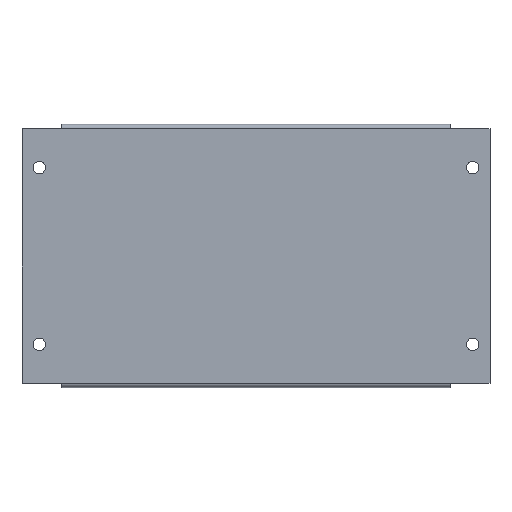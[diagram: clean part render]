
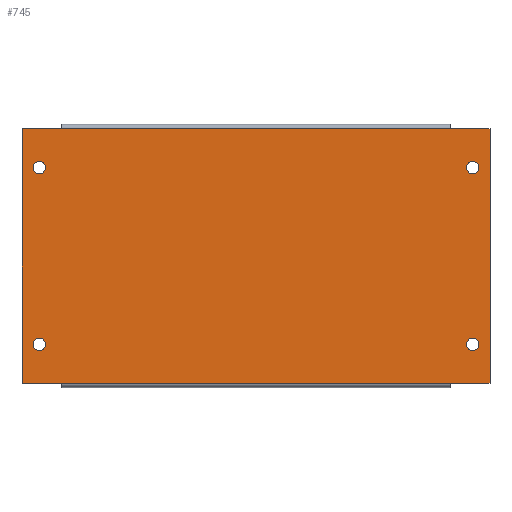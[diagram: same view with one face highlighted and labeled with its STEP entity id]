
A CAD part, top view. The second image highlights one B-rep face of the part: STEP entity #745.
In plain terms, the highlighted planar face has unit normal (0, 0, 1).
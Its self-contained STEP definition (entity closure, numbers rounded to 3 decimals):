
#2 = AXIS2_PLACEMENT_3D ( 'NONE', #22, #500, #584 ) ;
#9 = DIRECTION ( 'NONE',  ( 0., -1., 0. ) ) ;
#10 = VERTEX_POINT ( 'NONE', #258 ) ;
#12 = DIRECTION ( 'NONE',  ( 0., 1., 0. ) ) ;
#14 = EDGE_CURVE ( 'NONE', #10, #620, #499, .T. ) ;
#16 = CARTESIAN_POINT ( 'NONE',  ( -132.5, 72.1, 1.2 ) ) ;
#22 = CARTESIAN_POINT ( 'NONE',  ( -122.75, -50., 1.2 ) ) ;
#35 = VERTEX_POINT ( 'NONE', #579 ) ;
#41 = EDGE_CURVE ( 'NONE', #829, #35, #211, .T. ) ;
#43 = DIRECTION ( 'NONE',  ( 1., 0., 0. ) ) ;
#51 = ORIENTED_EDGE ( 'NONE', *, *, #676, .F. ) ;
#58 = EDGE_CURVE ( 'NONE', #244, #700, #1012, .T. ) ;
#66 = AXIS2_PLACEMENT_3D ( 'NONE', #830, #268, #351 ) ;
#80 = ORIENTED_EDGE ( 'NONE', *, *, #951, .T. ) ;
#86 = VECTOR ( 'NONE', #284, 1000. ) ;
#88 = EDGE_CURVE ( 'NONE', #35, #212, #803, .T. ) ;
#95 = VECTOR ( 'NONE', #181, 1000. ) ;
#101 = DIRECTION ( 'NONE',  ( -1., 0., 0. ) ) ;
#104 = CARTESIAN_POINT ( 'NONE',  ( -119.25, -50., 1.2 ) ) ;
#109 = FACE_OUTER_BOUND ( 'NONE', #241, .T. ) ;
#121 = CARTESIAN_POINT ( 'NONE',  ( -132.5, 72.1, 1.2 ) ) ;
#122 = EDGE_CURVE ( 'NONE', #889, #850, #906, .T. ) ;
#127 = VECTOR ( 'NONE', #43, 1000. ) ;
#139 = CIRCLE ( 'NONE', #2, 3.5 ) ;
#146 = CARTESIAN_POINT ( 'NONE',  ( -119.25, 50., 1.2 ) ) ;
#147 = CARTESIAN_POINT ( 'NONE',  ( 126.25, 50., 1.2 ) ) ;
#163 = VECTOR ( 'NONE', #12, 1000. ) ;
#172 = DIRECTION ( 'NONE',  ( 1., 0., 0. ) ) ;
#181 = DIRECTION ( 'NONE',  ( -1., 0., 0. ) ) ;
#185 = AXIS2_PLACEMENT_3D ( 'NONE', #460, #702, #944 ) ;
#189 = ORIENTED_EDGE ( 'NONE', *, *, #58, .T. ) ;
#194 = CARTESIAN_POINT ( 'NONE',  ( 122.75, 50., 1.2 ) ) ;
#207 = CARTESIAN_POINT ( 'NONE',  ( 122.75, 50., 1.2 ) ) ;
#211 = LINE ( 'NONE', #16, #577 ) ;
#212 = VERTEX_POINT ( 'NONE', #216 ) ;
#216 = CARTESIAN_POINT ( 'NONE',  ( -132.5, -72.1, 1.2 ) ) ;
#229 = ORIENTED_EDGE ( 'NONE', *, *, #14, .F. ) ;
#231 = EDGE_LOOP ( 'NONE', ( #267, #51 ) ) ;
#237 = AXIS2_PLACEMENT_3D ( 'NONE', #283, #766, #523 ) ;
#241 = EDGE_LOOP ( 'NONE', ( #826, #297, #482, #775, #925, #483, #953, #356 ) ) ;
#244 = VERTEX_POINT ( 'NONE', #785 ) ;
#258 = CARTESIAN_POINT ( 'NONE',  ( 126.25, -50., 1.2 ) ) ;
#263 = DIRECTION ( 'NONE',  ( 0., 0., 1. ) ) ;
#267 = ORIENTED_EDGE ( 'NONE', *, *, #435, .F. ) ;
#268 = DIRECTION ( 'NONE',  ( 0., 0., 1. ) ) ;
#272 = CARTESIAN_POINT ( 'NONE',  ( -126.25, 50., 1.2 ) ) ;
#279 = EDGE_LOOP ( 'NONE', ( #976, #80 ) ) ;
#283 = CARTESIAN_POINT ( 'NONE',  ( -122.75, 50., 1.2 ) ) ;
#284 = DIRECTION ( 'NONE',  ( 1., 0., 0. ) ) ;
#294 = CARTESIAN_POINT ( 'NONE',  ( -132.5, -72.1, 1.2 ) ) ;
#297 = ORIENTED_EDGE ( 'NONE', *, *, #413, .T. ) ;
#304 = LINE ( 'NONE', #762, #86 ) ;
#308 = VERTEX_POINT ( 'NONE', #705 ) ;
#325 = DIRECTION ( 'NONE',  ( 1., 0., 0. ) ) ;
#329 = CIRCLE ( 'NONE', #746, 3.5 ) ;
#332 = ORIENTED_EDGE ( 'NONE', *, *, #893, .F. ) ;
#350 = CARTESIAN_POINT ( 'NONE',  ( 119.25, -50., 1.2 ) ) ;
#351 = DIRECTION ( 'NONE',  ( 1., 0., 0. ) ) ;
#356 = ORIENTED_EDGE ( 'NONE', *, *, #41, .T. ) ;
#362 = CARTESIAN_POINT ( 'NONE',  ( -132.5, -72.1, 1.2 ) ) ;
#367 = LINE ( 'NONE', #362, #127 ) ;
#369 = VERTEX_POINT ( 'NONE', #885 ) ;
#404 = CIRCLE ( 'NONE', #833, 3.5 ) ;
#408 = VERTEX_POINT ( 'NONE', #146 ) ;
#413 = EDGE_CURVE ( 'NONE', #212, #308, #367, .T. ) ;
#423 = CARTESIAN_POINT ( 'NONE',  ( 132.5, 74.5, 1.2 ) ) ;
#427 = DIRECTION ( 'NONE',  ( 1., 0., 0. ) ) ;
#435 = EDGE_CURVE ( 'NONE', #408, #865, #897, .T. ) ;
#445 = AXIS2_PLACEMENT_3D ( 'NONE', #504, #729, #325 ) ;
#460 = CARTESIAN_POINT ( 'NONE',  ( 122.75, -50., 1.2 ) ) ;
#472 = ORIENTED_EDGE ( 'NONE', *, *, #655, .T. ) ;
#482 = ORIENTED_EDGE ( 'NONE', *, *, #791, .T. ) ;
#483 = ORIENTED_EDGE ( 'NONE', *, *, #122, .T. ) ;
#486 = LINE ( 'NONE', #423, #163 ) ;
#495 = DIRECTION ( 'NONE',  ( 0., 0., -1. ) ) ;
#499 = CIRCLE ( 'NONE', #601, 3.5 ) ;
#500 = DIRECTION ( 'NONE',  ( 0., 0., -1. ) ) ;
#504 = CARTESIAN_POINT ( 'NONE',  ( -122.75, 50., 1.2 ) ) ;
#512 = DIRECTION ( 'NONE',  ( 1., 0., 0. ) ) ;
#521 = DIRECTION ( 'NONE',  ( 0., 0., -1. ) ) ;
#523 = DIRECTION ( 'NONE',  ( 1., 0., 0. ) ) ;
#524 = FACE_BOUND ( 'NONE', #279, .T. ) ;
#531 = CARTESIAN_POINT ( 'NONE',  ( 110.2, -72.1, 1.2 ) ) ;
#539 = FACE_BOUND ( 'NONE', #869, .T. ) ;
#554 = LINE ( 'NONE', #294, #752 ) ;
#560 = VERTEX_POINT ( 'NONE', #147 ) ;
#563 = CARTESIAN_POINT ( 'NONE',  ( 110.2, 72.1, 1.2 ) ) ;
#565 = CIRCLE ( 'NONE', #445, 3.5 ) ;
#570 = AXIS2_PLACEMENT_3D ( 'NONE', #657, #495, #427 ) ;
#575 = LINE ( 'NONE', #563, #95 ) ;
#577 = VECTOR ( 'NONE', #101, 1000. ) ;
#579 = CARTESIAN_POINT ( 'NONE',  ( -132.5, 72.1, 1.2 ) ) ;
#584 = DIRECTION ( 'NONE',  ( 1., 0., 0. ) ) ;
#601 = AXIS2_PLACEMENT_3D ( 'NONE', #747, #263, #172 ) ;
#615 = VECTOR ( 'NONE', #686, 1000. ) ;
#616 = VECTOR ( 'NONE', #9, 1000. ) ;
#620 = VERTEX_POINT ( 'NONE', #350 ) ;
#622 = CARTESIAN_POINT ( 'NONE',  ( 119.25, 50., 1.2 ) ) ;
#628 = EDGE_CURVE ( 'NONE', #926, #369, #554, .T. ) ;
#654 = FACE_BOUND ( 'NONE', #231, .T. ) ;
#655 = EDGE_CURVE ( 'NONE', #700, #244, #139, .T. ) ;
#657 = CARTESIAN_POINT ( 'NONE',  ( -122.75, -50., 1.2 ) ) ;
#660 = EDGE_CURVE ( 'NONE', #850, #829, #575, .T. ) ;
#676 = EDGE_CURVE ( 'NONE', #865, #408, #565, .T. ) ;
#686 = DIRECTION ( 'NONE',  ( -1., 0., 0. ) ) ;
#700 = VERTEX_POINT ( 'NONE', #104 ) ;
#702 = DIRECTION ( 'NONE',  ( 0., 0., 1. ) ) ;
#704 = EDGE_CURVE ( 'NONE', #369, #889, #486, .T. ) ;
#705 = CARTESIAN_POINT ( 'NONE',  ( -110.2, -72.1, 1.2 ) ) ;
#729 = DIRECTION ( 'NONE',  ( 0., 0., 1. ) ) ;
#745 = ADVANCED_FACE ( 'NONE', ( #934, #524, #654, #109, #539 ), #991, .T. ) ;
#746 = AXIS2_PLACEMENT_3D ( 'NONE', #194, #521, #512 ) ;
#747 = CARTESIAN_POINT ( 'NONE',  ( 122.75, -50., 1.2 ) ) ;
#752 = VECTOR ( 'NONE', #987, 1000. ) ;
#762 = CARTESIAN_POINT ( 'NONE',  ( -110.2, -72.1, 1.2 ) ) ;
#766 = DIRECTION ( 'NONE',  ( 0., 0., 1. ) ) ;
#774 = EDGE_CURVE ( 'NONE', #560, #952, #329, .T. ) ;
#775 = ORIENTED_EDGE ( 'NONE', *, *, #628, .T. ) ;
#778 = DIRECTION ( 'NONE',  ( 1., 0., 0. ) ) ;
#785 = CARTESIAN_POINT ( 'NONE',  ( -126.25, -50., 1.2 ) ) ;
#791 = EDGE_CURVE ( 'NONE', #308, #926, #304, .T. ) ;
#803 = LINE ( 'NONE', #997, #616 ) ;
#826 = ORIENTED_EDGE ( 'NONE', *, *, #88, .T. ) ;
#829 = VERTEX_POINT ( 'NONE', #844 ) ;
#830 = CARTESIAN_POINT ( 'NONE',  ( -132.5, -74.5, 1.2 ) ) ;
#833 = AXIS2_PLACEMENT_3D ( 'NONE', #207, #1022, #778 ) ;
#834 = CIRCLE ( 'NONE', #185, 3.5 ) ;
#844 = CARTESIAN_POINT ( 'NONE',  ( -110.2, 72.1, 1.2 ) ) ;
#850 = VERTEX_POINT ( 'NONE', #927 ) ;
#865 = VERTEX_POINT ( 'NONE', #272 ) ;
#869 = EDGE_LOOP ( 'NONE', ( #472, #189 ) ) ;
#885 = CARTESIAN_POINT ( 'NONE',  ( 132.5, -72.1, 1.2 ) ) ;
#889 = VERTEX_POINT ( 'NONE', #947 ) ;
#893 = EDGE_CURVE ( 'NONE', #620, #10, #834, .T. ) ;
#897 = CIRCLE ( 'NONE', #237, 3.5 ) ;
#906 = LINE ( 'NONE', #121, #615 ) ;
#925 = ORIENTED_EDGE ( 'NONE', *, *, #704, .T. ) ;
#926 = VERTEX_POINT ( 'NONE', #531 ) ;
#927 = CARTESIAN_POINT ( 'NONE',  ( 110.2, 72.1, 1.2 ) ) ;
#934 = FACE_BOUND ( 'NONE', #1040, .T. ) ;
#944 = DIRECTION ( 'NONE',  ( 1., 0., 0. ) ) ;
#947 = CARTESIAN_POINT ( 'NONE',  ( 132.5, 72.1, 1.2 ) ) ;
#951 = EDGE_CURVE ( 'NONE', #952, #560, #404, .T. ) ;
#952 = VERTEX_POINT ( 'NONE', #622 ) ;
#953 = ORIENTED_EDGE ( 'NONE', *, *, #660, .T. ) ;
#976 = ORIENTED_EDGE ( 'NONE', *, *, #774, .T. ) ;
#987 = DIRECTION ( 'NONE',  ( 1., 0., 0. ) ) ;
#991 = PLANE ( 'NONE',  #66 ) ;
#997 = CARTESIAN_POINT ( 'NONE',  ( -132.5, 74.5, 1.2 ) ) ;
#1012 = CIRCLE ( 'NONE', #570, 3.5 ) ;
#1022 = DIRECTION ( 'NONE',  ( 0., 0., -1. ) ) ;
#1040 = EDGE_LOOP ( 'NONE', ( #229, #332 ) ) ;
